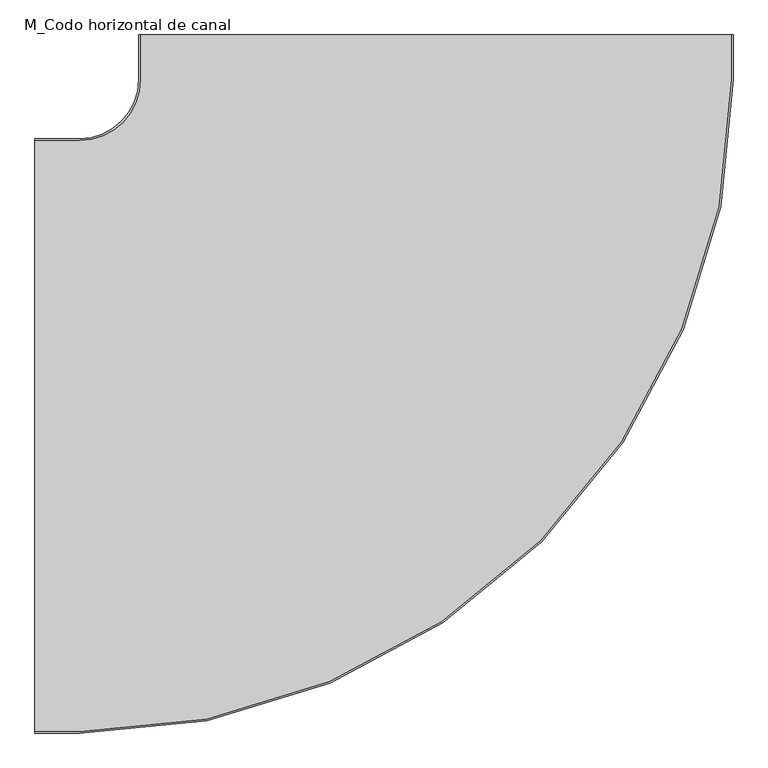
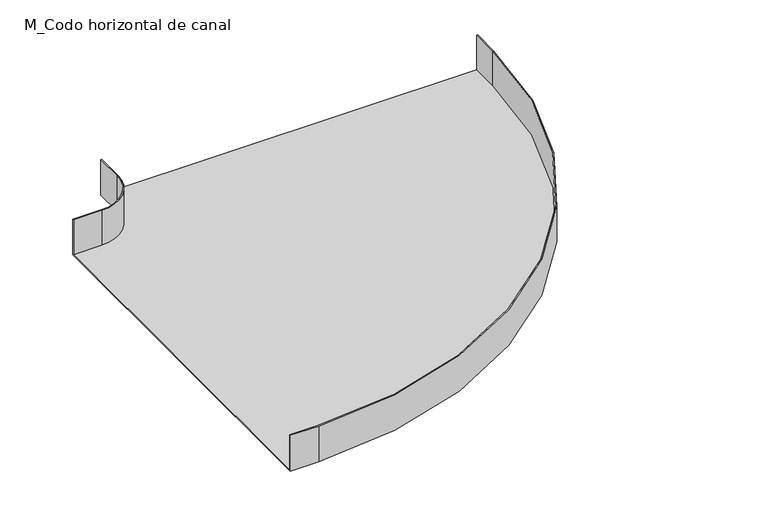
"""IFC4 building model written with IfcOpenShell, lengths in millimetres: cable carrier fitting geometry, M_Codo horizontal de canal : Gasos."""

from ifc_helpers import new_model, si_unit, frame, origin, place, context, project, spatial, polyline, circle_curve, source, transform, mapped, element, save
from ifc_brep_helpers import plane_surface, cylinder_surface, revolved_surface, advanced_brep


def m_codo_horizontal_de_canal_a375e3e3(model_context):
    return source(origin(), model_context, "Body", "AdvancedBrep", [
        advanced_brep(
        [(-675.0, -500.0, -50.0), (-675.0, -500.0, 50.0), (-675.0, -497.46, 50.0), (-675.0, -497.46, -47.46), (-675.0, 497.46, -47.46), (-675.0, 497.46, 50.0), (-675.0, 500.0, 50.0), (-675.0, 500.0, -50.0), (500.0, 675.0, -50.0), (-500.0, 675.0, -50.0), (-500.0, 675.0, 50.0), (-497.46, 675.0, 50.0), (-497.46, 675.0, -47.46), (497.46, 675.0, -47.46), (497.46, 675.0, 50.0), (500.0, 675.0, 50.0), (-600.0, -500.0, -50.0), (-600.0, -500.0, 50.0), (500.0, 600.0, 50.0), (497.46, 600.0, 50.0), (-600.0, -497.46, 50.0), (-600.0, -497.46, -47.46), (497.46, 600.0, -47.46), (-497.46, 600.0, -47.46), (-600.0, 497.46, -47.46), (-600.0, 497.46, 50.0), (-497.46, 600.0, 50.0), (-500.0, 600.0, 50.0), (-600.0, 500.0, 50.0), (-600.0, 500.0, -50.0), (-500.0, 600.0, -50.0), (500.0, 600.0, -50.0)],
        [
            (0, 1),
            (1, 2),
            (2, 3),
            (3, 4),
            (4, 5),
            (5, 6),
            (6, 7),
            (7, 0),
            (8, 9),
            (9, 10),
            (10, 11),
            (11, 12),
            (12, 13),
            (13, 14),
            (14, 15),
            (15, 8),
            (0, 16),
            (16, 17),
            (17, 1),
            (17, 18, circle_curve(frame((-600.0, 600.0, 50.0), z_axis=(0.0, 0.0, 1.0), x_axis=(0.0, -1.0, 0.0)), 1100.0)),
            (18, 15),
            (14, 19),
            (19, 20, circle_curve(frame((-600.0, 600.0, 50.0), z_axis=(0.0, 0.0, -1.0), x_axis=(0.0, -1.0, 0.0)), 1097.46)),
            (20, 2),
            (20, 21),
            (21, 3),
            (21, 22, circle_curve(frame((-600.0, 600.0, -47.46), z_axis=(0.0, 0.0, 1.0), x_axis=(0.0, -1.0, 0.0)), 1097.46)),
            (22, 13),
            (12, 23),
            (23, 24, circle_curve(frame((-600.0, 600.0, -47.46), z_axis=(0.0, 0.0, -1.0), x_axis=(0.0, -1.0, 0.0)), 102.54)),
            (24, 4),
            (24, 25),
            (25, 5),
            (25, 26, circle_curve(frame((-600.0, 600.0, 50.0), z_axis=(0.0, 0.0, 1.0), x_axis=(0.0, -1.0, 0.0)), 102.54)),
            (26, 11),
            (10, 27),
            (27, 28, circle_curve(frame((-600.0, 600.0, 50.0), z_axis=(0.0, 0.0, -1.0), x_axis=(0.0, -1.0, 0.0)), 100.0)),
            (28, 6),
            (28, 29),
            (29, 7),
            (29, 30, circle_curve(frame((-600.0, 600.0, -50.0), z_axis=(0.0, 0.0, 1.0), x_axis=(0.0, -1.0, 0.0)), 100.0)),
            (30, 9),
            (8, 31),
            (31, 16, circle_curve(frame((-600.0, 600.0, -50.0), z_axis=(0.0, 0.0, -1.0), x_axis=(0.0, -1.0, 0.0)), 1100.0)),
            (31, 18),
            (19, 22),
            (23, 26),
            (27, 30),
        ],
        [
            plane_surface(frame((-675.0, 0.0, 0.0), z_axis=(-1.0, 0.0, 0.0), x_axis=(0.0, 0.0, 1.0))),
            plane_surface(frame((0.0, 675.0, 0.0), z_axis=(0.0, 1.0, 0.0), x_axis=(0.0, 0.0, 1.0))),
            plane_surface(frame((-675.0, -500.0, -50.0), z_axis=(0.0, -1.0, 0.0), x_axis=(1.0, 0.0, 0.0))),
            plane_surface(frame((-675.0, -500.0, 50.0), z_axis=(0.0, 0.0, 1.0), x_axis=(1.0, 0.0, 0.0))),
            plane_surface(frame((-675.0, -497.46, 50.0), z_axis=(0.0, 1.0, 0.0), x_axis=(1.0, 0.0, 0.0))),
            plane_surface(frame((-675.0, -497.46, -47.46), z_axis=(0.0, 0.0, 1.0), x_axis=(1.0, 0.0, 0.0))),
            plane_surface(frame((-675.0, 497.46, -47.46), z_axis=(0.0, -1.0, 0.0), x_axis=(1.0, 0.0, 0.0))),
            plane_surface(frame((-675.0, 497.46, 50.0), z_axis=(0.0, 0.0, 1.0), x_axis=(1.0, 0.0, 0.0))),
            plane_surface(frame((-675.0, 500.0, 50.0), z_axis=(0.0, 1.0, 0.0), x_axis=(1.0, 0.0, 0.0))),
            plane_surface(frame((-675.0, 500.0, -50.0), z_axis=(0.0, 0.0, -1.0), x_axis=(1.0, 0.0, 0.0))),
            cylinder_surface(frame((-600.0, 600.0, 0.0), z_axis=(0.0, 0.0, 1.0), x_axis=(0.0, -1.0, 0.0)), 1100.0),
            revolved_surface(polyline([(-600.0, -497.46000000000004, 50.0), (-600.0, -497.46000000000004, -47.46)]), (-600.0, 600.0, 0.0), (0.0, 0.0, 1.0)),
            cylinder_surface(frame((-600.0, 600.0, 0.0), z_axis=(0.0, 0.0, 1.0), x_axis=(0.0, -1.0, 0.0)), 102.54),
            revolved_surface(polyline([(-600.0, 500.0, 50.0), (-600.0, 500.0, -50.0)]), (-600.0, 600.0, 0.0), (0.0, 0.0, 1.0)),
            plane_surface(frame((500.0, 600.0, -50.0), z_axis=(1.0, 0.0, 0.0), x_axis=(0.0, 1.0, 0.0))),
            plane_surface(frame((497.46, 600.0, 50.0), z_axis=(-1.0, 0.0, 0.0), x_axis=(0.0, 1.0, 0.0))),
            plane_surface(frame((-497.46, 600.0, -47.46), z_axis=(1.0, 0.0, 0.0), x_axis=(0.0, 1.0, 0.0))),
            plane_surface(frame((-500.0, 600.0, 50.0), z_axis=(-1.0, 0.0, 0.0), x_axis=(0.0, 1.0, 0.0))),
        ],
        [
            (0, [[1, 2, 3, 4, 5, 6, 7, 8]]),
            (1, [[9, 10, 11, 12, 13, 14, 15, 16]]),
            (2, [[-1, 17, 18, 19]]),
            (3, [[-2, -19, 20, 21, -15, 22, 23, 24]]),
            (4, [[-3, -24, 25, 26]]),
            (5, [[-4, -26, 27, 28, -13, 29, 30, 31]]),
            (6, [[-5, -31, 32, 33]]),
            (7, [[-6, -33, 34, 35, -11, 36, 37, 38]]),
            (8, [[-7, -38, 39, 40]]),
            (9, [[-8, -40, 41, 42, -9, 43, 44, -17]]),
            (10, [[-20, -18, -44, 45]]),
            (11, [[-27, -25, -23, 46]]),
            (12, [[-34, -32, -30, 47]]),
            (13, [[-41, -39, -37, 48]]),
            (14, [[-45, -43, -16, -21]]),
            (15, [[-46, -22, -14, -28]]),
            (16, [[-47, -29, -12, -35]]),
            (17, [[-48, -36, -10, -42]]),
        ],
    ),
    ])


if __name__ == "__main__":
    model = new_model("IFC4")
    model_context = context("Model", 3, world=origin())
    ifc_project = project(units=[si_unit("LENGTHUNIT", "METRE", prefix="MILLI")], contexts=[model_context])
    site = spatial("IfcSite", under=ifc_project)
    building = spatial("IfcBuilding", under=site)
    placement = place(None, origin())
    m_codo_horizontal_de_canal_shape = m_codo_horizontal_de_canal_a375e3e3(model_context)
    element("IfcCableCarrierFitting", 1, ObjectType="M_Codo horizontal de canal : Gasos", at=placement, inside=building, context=model_context, shape_type="MappedRepresentation", body=[
        mapped(m_codo_horizontal_de_canal_shape, transform((0.0, 0.0, 0.0), x_axis=(1.0, 0.0, 0.0), y_axis=(0.0, 1.0, 0.0), z_axis=(0.0, 0.0, 1.0))),
    ])
    save(model, "model.ifc")
